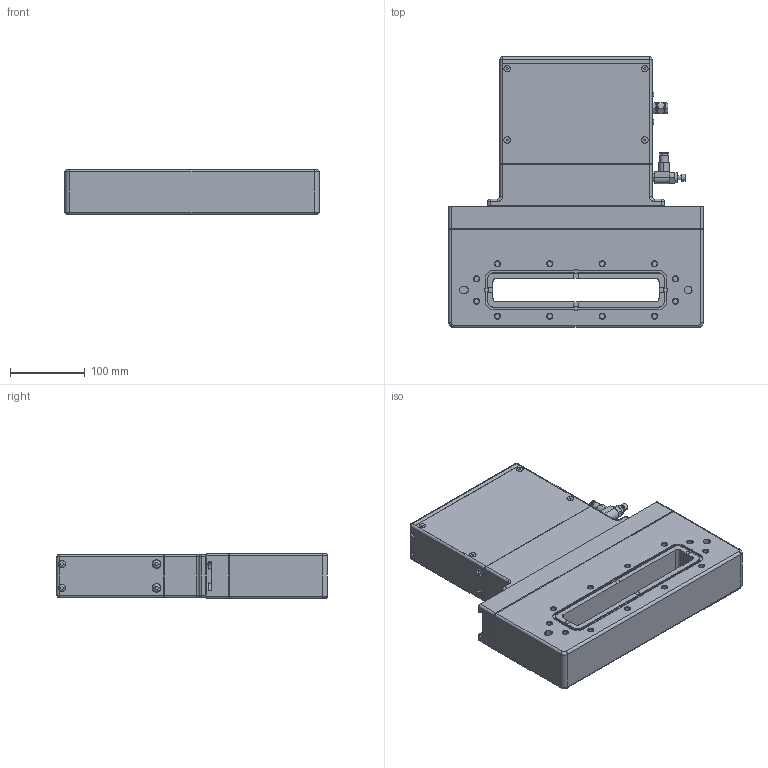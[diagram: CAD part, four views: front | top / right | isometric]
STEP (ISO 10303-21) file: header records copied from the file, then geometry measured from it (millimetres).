
FILE_DESCRIPTION((''),'2;1');
FILE_NAME('28212-0109RXJ','2011-03-02T',('jd'),(''),'PRO/ENGINEER BY PARAMETRIC TECHNOLOGY CORPORATION, 2010280','PRO/ENGINEER BY PARAMETRIC TECHNOLOGY CORPORATION, 2010280','');
FILE_SCHEMA(('CONFIG_CONTROL_DESIGN'));
Length unit declared in the file: inch
Products named in the file (1): 28212-0109RXJ
Bounding box: 340 x 362.2 x 59.99 mm (x, y, z)
Volume: 5214661 mm3; surface area: 328568.1 mm2
Topology: 1 solids, 25 shells, 1008 faces, 2434 edges, 1532 vertices
Faces by surface type: plane 486, cylinder 282, cone 186, bspline 24, torus 22, sphere 8
Entity records: 31515 total; most frequent: CARTESIAN_POINT 7829, DIRECTION 5074, ORIENTED_EDGE 4724, EDGE_CURVE 2410, AXIS2_PLACEMENT_3D 1899, VERTEX_POINT 1532, VECTOR 1276, LINE 1276
